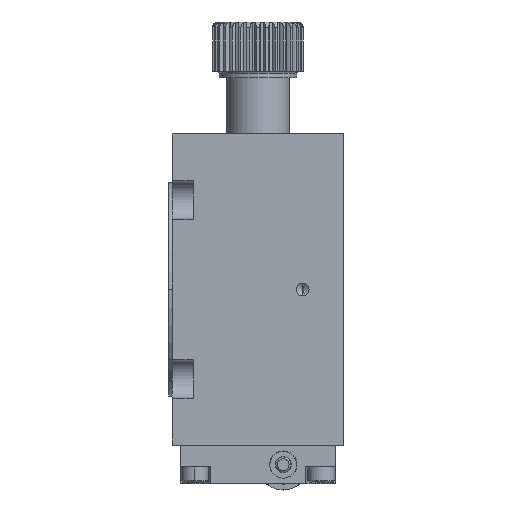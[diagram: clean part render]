
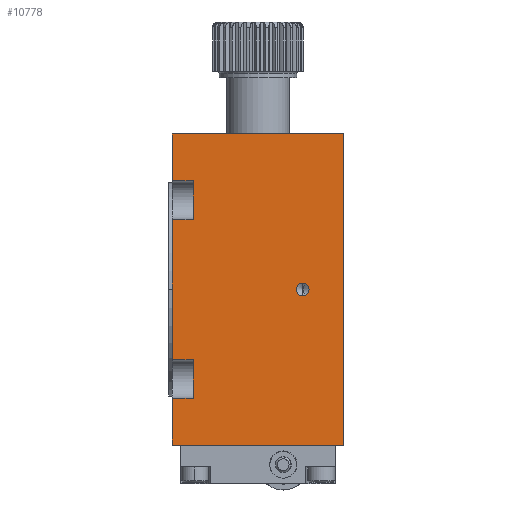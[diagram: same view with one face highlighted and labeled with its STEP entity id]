
A CAD part, left-side view. The second image highlights one B-rep face of the part: STEP entity #10778.
In plain terms, the highlighted planar face has unit normal (-1, 0, 0).
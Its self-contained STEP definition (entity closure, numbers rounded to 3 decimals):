
#421 = FACE_BOUND ( 'NONE', #31042, .T. ) ;
#428 = FACE_OUTER_BOUND ( 'NONE', #31068, .T. ) ;
#2644 = CARTESIAN_POINT ( 'NONE',  ( -40., 10.5, -1.65 ) ) ;
#2909 = CARTESIAN_POINT ( 'NONE',  ( -40., 0., -40. ) ) ;
#2994 = CARTESIAN_POINT ( 'NONE',  ( -40., 10.5, 1.65 ) ) ;
#4257 = CARTESIAN_POINT ( 'NONE',  ( -40., 10.5, 0. ) ) ;
#4264 = DIRECTION ( 'NONE',  ( -1., 0., 0. ) ) ;
#4265 = DIRECTION ( 'NONE',  ( 0., 0., 1. ) ) ;
#7806 = EDGE_CURVE ( 'NONE', #36939, #36941, #21423, .T. ) ;
#7818 = EDGE_CURVE ( 'NONE', #36172, #36193, #21464, .T. ) ;
#7837 = EDGE_CURVE ( 'NONE', #36655, #36502, #21535, .T. ) ;
#7844 = EDGE_CURVE ( 'NONE', #36530, #36172, #21515, .T. ) ;
#7851 = EDGE_CURVE ( 'NONE', #36692, #36530, #21575, .T. ) ;
#7867 = EDGE_CURVE ( 'NONE', #36512, #36941, #21623, .T. ) ;
#7890 = EDGE_CURVE ( 'NONE', #35661, #36193, #21705, .T. ) ;
#7914 = EDGE_CURVE ( 'NONE', #36502, #36640, #21748, .T. ) ;
#7917 = EDGE_CURVE ( 'NONE', #36655, #36512, #21785, .T. ) ;
#7923 = EDGE_CURVE ( 'NONE', #36939, #35661, #21803, .T. ) ;
#7989 = EDGE_CURVE ( 'NONE', #36692, #36510, #21964, .T. ) ;
#7997 = EDGE_CURVE ( 'NONE', #36510, #36640, #21978, .T. ) ;
#8000 = EDGE_CURVE ( 'NONE', #35854, #35089, #22003, .T. ) ;
#10778 = ADVANCED_FACE ( 'NONE', ( #421, #428 ), #17554, .F. ) ;
#16122 = CARTESIAN_POINT ( 'NONE',  ( -40., 10.5, 0. ) ) ;
#16126 = DIRECTION ( 'NONE',  ( 0., 1., 0. ) ) ;
#16297 = CARTESIAN_POINT ( 'NONE',  ( -40., 38.6, 18. ) ) ;
#16374 = DIRECTION ( 'NONE',  ( 0., 0., 1. ) ) ;
#16422 = DIRECTION ( 'NONE',  ( 0., 0., -1. ) ) ;
#16759 = CARTESIAN_POINT ( 'NONE',  ( -40., 25.146, 18. ) ) ;
#16776 = DIRECTION ( 'NONE',  ( -1., 0., 0. ) ) ;
#17553 = CARTESIAN_POINT ( 'NONE',  ( -40., 44., -40. ) ) ;
#17554 = PLANE ( 'NONE',  #40080 ) ;
#17555 = DIRECTION ( 'NONE',  ( 1., 0., 0. ) ) ;
#17556 = DIRECTION ( 'NONE',  ( 0., 0., -1. ) ) ;
#20045 = AXIS2_PLACEMENT_3D ( 'NONE', #16122, #16776, #16374 ) ;
#20953 = CARTESIAN_POINT ( 'NONE',  ( -40., 38.6, -40. ) ) ;
#21039 = DIRECTION ( 'NONE',  ( 0., 0., 1. ) ) ;
#21137 = CARTESIAN_POINT ( 'NONE',  ( -40., 44., -40. ) ) ;
#21173 = CARTESIAN_POINT ( 'NONE',  ( -40., 44., -40. ) ) ;
#21186 = DIRECTION ( 'NONE',  ( 0., -1., 0. ) ) ;
#21415 = VECTOR ( 'NONE', #22655, 1000. ) ;
#21423 = LINE ( 'NONE', #22649, #21415 ) ;
#21464 = LINE ( 'NONE', #22325, #21466 ) ;
#21466 = VECTOR ( 'NONE', #22326, 1000. ) ;
#21514 = DIRECTION ( 'NONE',  ( 0., 0., -1. ) ) ;
#21515 = LINE ( 'NONE', #22890, #21566 ) ;
#21526 = DIRECTION ( 'NONE',  ( 0., 1., 0. ) ) ;
#21528 = CARTESIAN_POINT ( 'NONE',  ( -40., 25.146, -28. ) ) ;
#21535 = LINE ( 'NONE', #22184, #21536 ) ;
#21536 = VECTOR ( 'NONE', #22894, 1000. ) ;
#21566 = VECTOR ( 'NONE', #22115, 1000. ) ;
#21575 = LINE ( 'NONE', #21677, #21578 ) ;
#21578 = VECTOR ( 'NONE', #21675, 1000. ) ;
#21601 = VECTOR ( 'NONE', #21526, 1000. ) ;
#21623 = LINE ( 'NONE', #21528, #21601 ) ;
#21675 = DIRECTION ( 'NONE',  ( 0., 1., 0. ) ) ;
#21677 = CARTESIAN_POINT ( 'NONE',  ( -40., 25.146, 28. ) ) ;
#21705 = LINE ( 'NONE', #21815, #21709 ) ;
#21709 = VECTOR ( 'NONE', #21812, 1000. ) ;
#21748 = LINE ( 'NONE', #21137, #21772 ) ;
#21772 = VECTOR ( 'NONE', #21039, 1000. ) ;
#21780 = VECTOR ( 'NONE', #21514, 1000. ) ;
#21785 = LINE ( 'NONE', #20953, #21780 ) ;
#21803 = LINE ( 'NONE', #21173, #21805 ) ;
#21805 = VECTOR ( 'NONE', #21186, 1000. ) ;
#21812 = DIRECTION ( 'NONE',  ( 0., 0., 1. ) ) ;
#21815 = CARTESIAN_POINT ( 'NONE',  ( -40., 0., -40. ) ) ;
#21955 = VECTOR ( 'NONE', #16422, 1000. ) ;
#21964 = LINE ( 'NONE', #16297, #21955 ) ;
#21978 = LINE ( 'NONE', #16759, #21991 ) ;
#21991 = VECTOR ( 'NONE', #16126, 1000. ) ;
#22003 = CIRCLE ( 'NONE', #20045, 1.65 ) ;
#22115 = DIRECTION ( 'NONE',  ( 0., 0., 1. ) ) ;
#22184 = CARTESIAN_POINT ( 'NONE',  ( -40., 25.146, -18. ) ) ;
#22325 = CARTESIAN_POINT ( 'NONE',  ( -40., 44., 40. ) ) ;
#22326 = DIRECTION ( 'NONE',  ( 0., -1., 0. ) ) ;
#22649 = CARTESIAN_POINT ( 'NONE',  ( -40., 44., -40. ) ) ;
#22655 = DIRECTION ( 'NONE',  ( 0., 0., 1. ) ) ;
#22890 = CARTESIAN_POINT ( 'NONE',  ( -40., 44., -40. ) ) ;
#22894 = DIRECTION ( 'NONE',  ( 0., 1., 0. ) ) ;
#24286 = EDGE_CURVE ( 'NONE', #35089, #35854, #29729, .T. ) ;
#29729 = CIRCLE ( 'NONE', #40399, 1.65 ) ;
#30931 = ORIENTED_EDGE ( 'NONE', *, *, #7989, .T. ) ;
#30932 = ORIENTED_EDGE ( 'NONE', *, *, #24286, .F. ) ;
#30933 = ORIENTED_EDGE ( 'NONE', *, *, #7837, .F. ) ;
#30942 = ORIENTED_EDGE ( 'NONE', *, *, #7997, .T. ) ;
#30943 = ORIENTED_EDGE ( 'NONE', *, *, #7914, .F. ) ;
#30946 = ORIENTED_EDGE ( 'NONE', *, *, #7851, .F. ) ;
#30950 = ORIENTED_EDGE ( 'NONE', *, *, #7917, .T. ) ;
#30951 = ORIENTED_EDGE ( 'NONE', *, *, #7867, .T. ) ;
#30952 = ORIENTED_EDGE ( 'NONE', *, *, #7806, .F. ) ;
#30953 = ORIENTED_EDGE ( 'NONE', *, *, #7923, .T. ) ;
#30964 = ORIENTED_EDGE ( 'NONE', *, *, #7890, .T. ) ;
#30965 = ORIENTED_EDGE ( 'NONE', *, *, #7818, .F. ) ;
#30966 = ORIENTED_EDGE ( 'NONE', *, *, #7844, .F. ) ;
#30991 = ORIENTED_EDGE ( 'NONE', *, *, #8000, .F. ) ;
#31042 = EDGE_LOOP ( 'NONE', ( #30991, #30932 ) ) ;
#31068 = EDGE_LOOP ( 'NONE', ( #30946, #30931, #30942, #30943, #30933, #30950, #30951, #30952, #30953, #30964, #30965, #30966 ) ) ;
#35089 = VERTEX_POINT ( 'NONE', #2644 ) ;
#35661 = VERTEX_POINT ( 'NONE', #2909 ) ;
#35854 = VERTEX_POINT ( 'NONE', #2994 ) ;
#36172 = VERTEX_POINT ( 'NONE', #37664 ) ;
#36193 = VERTEX_POINT ( 'NONE', #37682 ) ;
#36502 = VERTEX_POINT ( 'NONE', #37950 ) ;
#36510 = VERTEX_POINT ( 'NONE', #37958 ) ;
#36512 = VERTEX_POINT ( 'NONE', #37960 ) ;
#36530 = VERTEX_POINT ( 'NONE', #37976 ) ;
#36640 = VERTEX_POINT ( 'NONE', #38070 ) ;
#36655 = VERTEX_POINT ( 'NONE', #38082 ) ;
#36692 = VERTEX_POINT ( 'NONE', #38108 ) ;
#36939 = VERTEX_POINT ( 'NONE', #38314 ) ;
#36941 = VERTEX_POINT ( 'NONE', #38316 ) ;
#37664 = CARTESIAN_POINT ( 'NONE',  ( -40., 44., 40. ) ) ;
#37682 = CARTESIAN_POINT ( 'NONE',  ( -40., 0., 40. ) ) ;
#37950 = CARTESIAN_POINT ( 'NONE',  ( -40., 44., -18. ) ) ;
#37958 = CARTESIAN_POINT ( 'NONE',  ( -40., 38.6, 18. ) ) ;
#37960 = CARTESIAN_POINT ( 'NONE',  ( -40., 38.6, -28. ) ) ;
#37976 = CARTESIAN_POINT ( 'NONE',  ( -40., 44., 28. ) ) ;
#38070 = CARTESIAN_POINT ( 'NONE',  ( -40., 44., 18. ) ) ;
#38082 = CARTESIAN_POINT ( 'NONE',  ( -40., 38.6, -18. ) ) ;
#38108 = CARTESIAN_POINT ( 'NONE',  ( -40., 38.6, 28. ) ) ;
#38314 = CARTESIAN_POINT ( 'NONE',  ( -40., 44., -40. ) ) ;
#38316 = CARTESIAN_POINT ( 'NONE',  ( -40., 44., -28. ) ) ;
#40080 = AXIS2_PLACEMENT_3D ( 'NONE', #17553, #17555, #17556 ) ;
#40399 = AXIS2_PLACEMENT_3D ( 'NONE', #4257, #4264, #4265 ) ;
